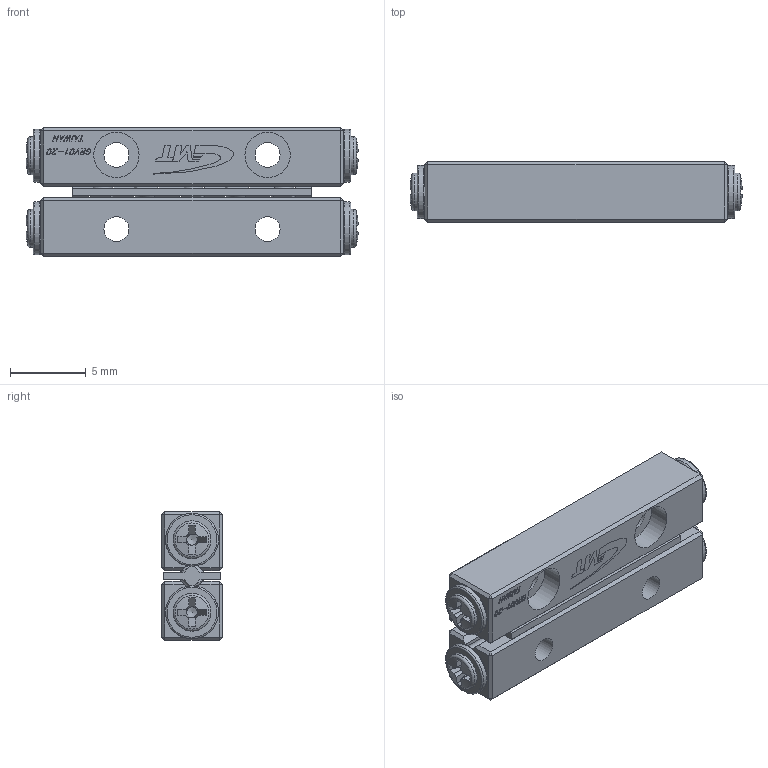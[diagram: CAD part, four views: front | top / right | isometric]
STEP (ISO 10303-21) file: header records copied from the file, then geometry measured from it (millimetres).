
FILE_DESCRIPTION (( 'STEP AP203' ), '1' );
FILE_NAME ('GRV01-20.STEP', '2023-07-31T01:00:19', ( '' ), ( '' ), 'SwSTEP 2.0', 'SolidWorks 2019', '' );
FILE_SCHEMA (( 'CONFIG_CONTROL_DESIGN' ));
Length unit declared in the file: millimetre
Products named in the file (3): GRVP01-20-模糊化保持器組; GRV01-20; GRV01-20-模糊化軌道
Assembly tree (3 placements, depth 2):
  GRV01-20
    GRV01-20-模糊化軌道  x2
    GRVP01-20-模糊化保持器組
Bounding box: 21.96 x 4 x 8.5 mm (x, y, z)
Volume: 581.5 mm3; surface area: 1075.2 mm2
Topology: 3 solids, 7 shells, 1136 faces, 3020 edges, 1968 vertices
Faces by surface type: plane 802, bspline 226, cylinder 42, cone 40, torus 22, sphere 4
Full cylindrical faces by diameter (mm): 1.3 x4, 1.65 x4, 2.5 x4, 3 x4, 3.5 x4
Entity records: 20656 total; most frequent: CARTESIAN_POINT 6169, ORIENTED_EDGE 3170, DIRECTION 2423, EDGE_CURVE 1585, VECTOR 1159, LINE 1159, VERTEX_POINT 1044, EDGE_LOOP 681
